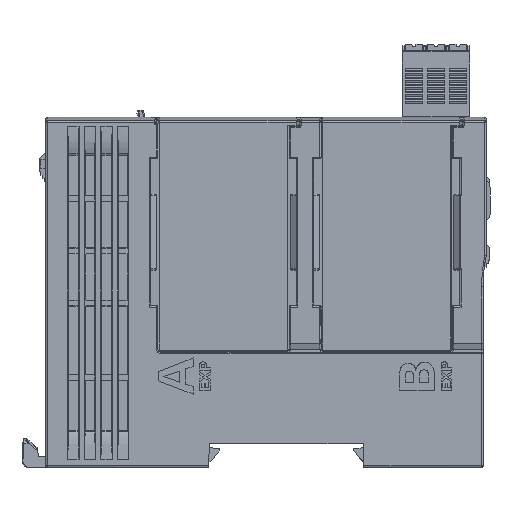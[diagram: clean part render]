
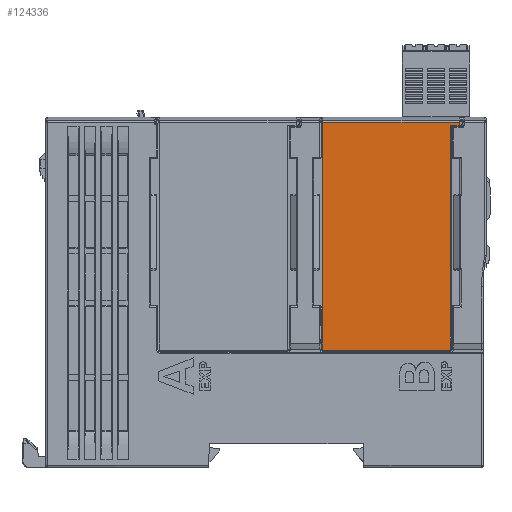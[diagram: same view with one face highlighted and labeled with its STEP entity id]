
A CAD part, left-side view. The second image highlights one B-rep face of the part: STEP entity #124336.
In plain terms, the highlighted planar face has unit normal (-1, 0, 0).
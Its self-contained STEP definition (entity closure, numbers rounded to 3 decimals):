
#23430=DIRECTION('',(0.,0.,1.));
#23431=VECTOR('',#23430,0.795);
#23432=CARTESIAN_POINT('',(-19.3,-44.55,-1.841));
#23433=LINE('',#23432,#23431);
#23438=CARTESIAN_POINT('',(-19.3,-42.55,
-53.192));
#23439=CARTESIAN_POINT('',(-19.3,-42.55,
-53.197));
#23440=CARTESIAN_POINT('',(-19.3,-42.549,
-53.209));
#23441=CARTESIAN_POINT('',(-19.3,-42.546,
-53.226));
#23442=CARTESIAN_POINT('',(-19.3,-42.541,-53.243));
#23443=CARTESIAN_POINT('',(-19.3,-42.534,-53.261));
#23444=CARTESIAN_POINT('',(-19.3,-42.523,-53.278));
#23445=CARTESIAN_POINT('',(-19.3,-42.51,-53.295));
#23446=CARTESIAN_POINT('',(-19.3,-42.493,-53.31));
#23447=CARTESIAN_POINT('',(-19.3,-42.474,-53.323));
#23448=CARTESIAN_POINT('',(-19.3,-42.452,
-53.333));
#23449=CARTESIAN_POINT('',(-19.3,-42.427,
-53.34));
#23450=CARTESIAN_POINT('',(-19.3,-42.409,
-53.342));
#23451=CARTESIAN_POINT('',(-19.3,-42.4,
-53.342));
#23453=CARTESIAN_POINT('',(-19.3,-13.5,
-53.342));
#23454=CARTESIAN_POINT('',(-19.3,-13.494,
-53.342));
#23455=CARTESIAN_POINT('',(-19.3,-13.483,
-53.341));
#23456=CARTESIAN_POINT('',(-19.3,-13.466,
-53.338));
#23457=CARTESIAN_POINT('',(-19.3,-13.448,-53.333));
#23458=CARTESIAN_POINT('',(-19.3,-13.431,-53.326));
#23459=CARTESIAN_POINT('',(-19.3,-13.414,-53.315));
#23460=CARTESIAN_POINT('',(-19.3,-13.397,-53.302));
#23461=CARTESIAN_POINT('',(-19.3,-13.382,-53.285));
#23462=CARTESIAN_POINT('',(-19.3,-13.369,-53.266));
#23463=CARTESIAN_POINT('',(-19.3,-13.359,
-53.244));
#23464=CARTESIAN_POINT('',(-19.3,-13.352,
-53.219));
#23465=CARTESIAN_POINT('',(-19.3,-13.35,
-53.201));
#23466=CARTESIAN_POINT('',(-19.3,-13.35,
-53.192));
#23480=DIRECTION('',(0.,-1.,
0.));
#23481=VECTOR('',#23480,2.);
#23482=CARTESIAN_POINT('',(-19.3,-42.55,
-1.841));
#23483=LINE('',#23482,#23481);
#23484=DIRECTION('',(0.,0.,1.));
#23485=VECTOR('',#23484,51.351);
#23486=CARTESIAN_POINT('',(-19.3,-42.55,
-53.192));
#23487=LINE('',#23486,#23485);
#23514=DIRECTION('',(0.,-1.,0.));
#23515=VECTOR('',#23514,28.9);
#23516=CARTESIAN_POINT('',(-19.3,-13.5,
-53.342));
#23517=LINE('',#23516,#23515);
#23540=DIRECTION('',(0.,0.,-1.));
#23541=VECTOR('',#23540,52.145);
#23542=CARTESIAN_POINT('',(-19.3,-13.35,
-1.046));
#23543=LINE('',#23542,#23541);
#23577=DIRECTION('',(0.,1.,0.));
#23578=VECTOR('',#23577,31.2);
#23579=CARTESIAN_POINT('',(-19.3,-44.55,-1.046));
#23580=LINE('',#23579,#23578);
#77505=CARTESIAN_POINT('',(-19.3,-44.55,-1.046));
#77506=VERTEX_POINT('',#77505);
#77507=CARTESIAN_POINT('',(-19.3,-44.55,-1.841));
#77508=VERTEX_POINT('',#77507);
#77509=CARTESIAN_POINT('',(-19.3,-42.55,
-1.841));
#77510=VERTEX_POINT('',#77509);
#77511=CARTESIAN_POINT('',(-19.3,-42.55,
-53.192));
#77512=VERTEX_POINT('',#77511);
#77513=VERTEX_POINT('',#23451);
#77514=CARTESIAN_POINT('',(-19.3,-13.5,
-53.342));
#77515=VERTEX_POINT('',#77514);
#77516=VERTEX_POINT('',#23466);
#77517=CARTESIAN_POINT('',(-19.3,-13.35,
-1.046));
#77518=VERTEX_POINT('',#77517);
#124314=CARTESIAN_POINT('',(-19.3,-27.95,-26.));
#124315=DIRECTION('',(1.,0.,0.));
#124316=DIRECTION('',(0.,1.,0.));
#124317=AXIS2_PLACEMENT_3D('',#124314,#124315,#124316);
#124318=PLANE('',#124317);
#124320=ORIENTED_EDGE('',*,*,#124319,.F.);
#124322=ORIENTED_EDGE('',*,*,#124321,.F.);
#124324=ORIENTED_EDGE('',*,*,#124323,.T.);
#124326=ORIENTED_EDGE('',*,*,#124325,.F.);
#124328=ORIENTED_EDGE('',*,*,#124327,.T.);
#124330=ORIENTED_EDGE('',*,*,#124329,.F.);
#124332=ORIENTED_EDGE('',*,*,#124331,.F.);
#124333=ORIENTED_EDGE('',*,*,#124305,.F.);
#124334=EDGE_LOOP('',(#124320,#124322,#124324,#124326,#124328,#124330,#124332,
#124333));
#124335=FACE_OUTER_BOUND('',#124334,.F.);
#124336=ADVANCED_FACE('',(#124335),#124318,.F.);
#23452=B_SPLINE_CURVE_WITH_KNOTS('',3,(#23438,#23439,#23440,#23441,#23442,
#23443,#23444,#23445,#23446,#23447,#23448,#23449,#23450,#23451),.UNSPECIFIED.,
.F.,.F.,(4,1,1,1,1,1,1,1,1,1,1,4),(0.,0.073,0.146,
0.222,0.302,0.386,0.477,
0.573,0.672,0.774,0.882,1.),
.UNSPECIFIED.);
#23467=B_SPLINE_CURVE_WITH_KNOTS('',3,(#23453,#23454,#23455,#23456,#23457,
#23458,#23459,#23460,#23461,#23462,#23463,#23464,#23465,#23466),.UNSPECIFIED.,
.F.,.F.,(4,1,1,1,1,1,1,1,1,1,1,4),(0.,0.073,0.146,
0.222,0.302,0.386,0.477,
0.572,0.672,0.774,0.882,1.),
.UNSPECIFIED.);
#124305=EDGE_CURVE('',#77508,#77506,#23433,.T.);
#124319=EDGE_CURVE('',#77510,#77508,#23483,.T.);
#124321=EDGE_CURVE('',#77512,#77510,#23487,.T.);
#124323=EDGE_CURVE('',#77512,#77513,#23452,.T.);
#124325=EDGE_CURVE('',#77515,#77513,#23517,.T.);
#124327=EDGE_CURVE('',#77515,#77516,#23467,.T.);
#124329=EDGE_CURVE('',#77518,#77516,#23543,.T.);
#124331=EDGE_CURVE('',#77506,#77518,#23580,.T.);
